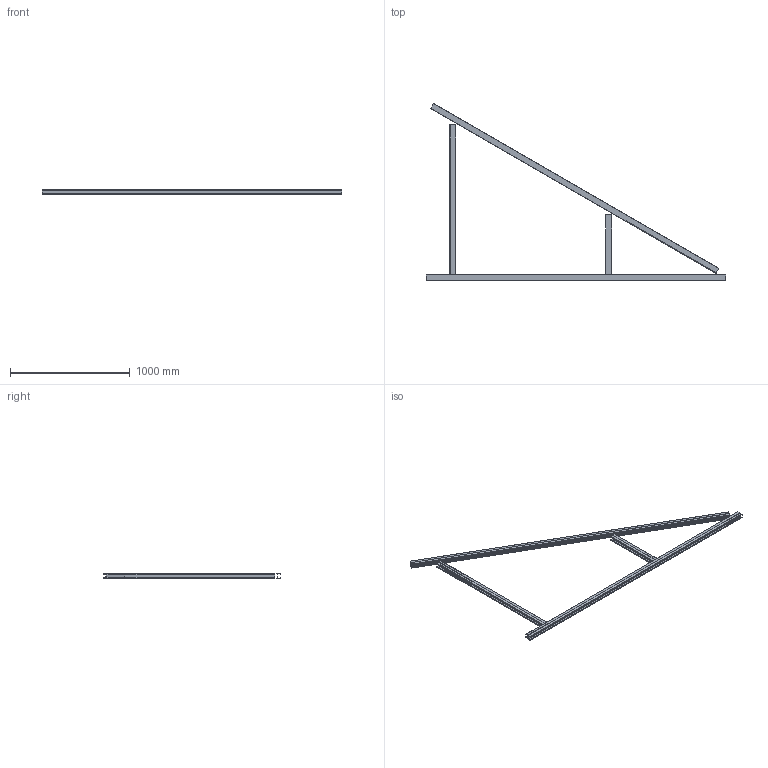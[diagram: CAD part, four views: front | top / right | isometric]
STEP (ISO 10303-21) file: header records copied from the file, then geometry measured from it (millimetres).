
FILE_DESCRIPTION (( 'STEP AP203' ), '1' );
FILE_NAME ('084.106.413.STEP', '2022-07-08T11:51:21', ( '' ), ( '' ), 'SwSTEP 2.0', 'SolidWorks 2021', '' );
FILE_SCHEMA (( 'CONFIG_CONTROL_DESIGN' ));
Length unit declared in the file: millimetre
Products named in the file (1): 084.106.413
Bounding box: 2500 x 1480.55 x 40 mm (x, y, z)
Volume: 2279955.7 mm3; surface area: 2292534.9 mm2
Topology: 4 solids, 4 shells, 136 faces, 384 edges, 256 vertices
Faces by surface type: plane 88, cylinder 48
Entity records: 4475 total; most frequent: CARTESIAN_POINT 777, ORIENTED_EDGE 768, DIRECTION 754, EDGE_CURVE 384, VECTOR 288, LINE 288, VERTEX_POINT 256, AXIS2_PLACEMENT_3D 233
